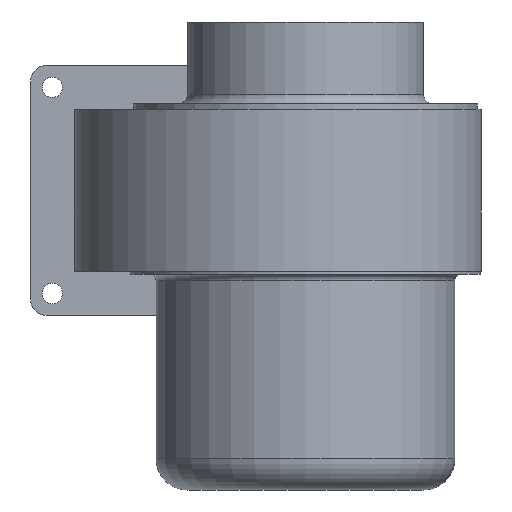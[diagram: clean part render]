
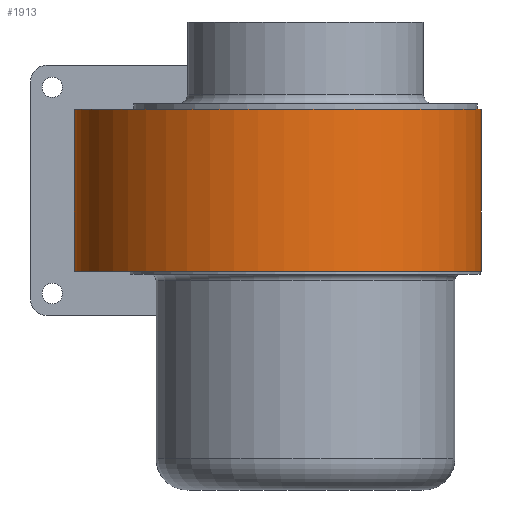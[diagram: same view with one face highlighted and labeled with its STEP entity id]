
A CAD part, left-side view. The second image highlights one B-rep face of the part: STEP entity #1913.
In plain terms, the highlighted free-form (B-spline) face has degree [3, 1] with [30, 2] control points.
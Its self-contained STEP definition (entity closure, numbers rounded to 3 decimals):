
#46=B_SPLINE_SURFACE_WITH_KNOTS('',3,1,((#3115,#3116),(#3117,#3118),(#3119,
#3120),(#3121,#3122),(#3123,#3124),(#3125,#3126),(#3127,#3128),(#3129,#3130),
(#3131,#3132),(#3133,#3134),(#3135,#3136),(#3137,#3138),(#3139,#3140),(#3141,
#3142),(#3143,#3144),(#3145,#3146),(#3147,#3148),(#3149,#3150),(#3151,#3152),
(#3153,#3154),(#3155,#3156),(#3157,#3158),(#3159,#3160),(#3161,#3162),(#3163,
#3164),(#3165,#3166),(#3167,#3168),(#3169,#3170),(#3171,#3172),(#3173,#3174)),
 .SURF_OF_LINEAR_EXTRUSION.,.F.,.F.,.F.,(4,1,1,1,1,1,1,1,1,1,1,1,1,1,1,
1,1,1,1,1,1,1,1,1,1,1,1,4),(2,2),(0.,0.016,0.031,0.047,0.063,0.078,
0.094,0.125,0.188,0.219,0.25,0.266,0.281,0.313,0.375,0.438,
0.5,0.563,0.625,0.688,0.75,0.813,0.844,0.875,0.906,0.938,0.969,
1.),(0.,1.),.UNSPECIFIED.);
#116=B_SPLINE_CURVE_WITH_KNOTS('',3,(#3008,#3009,#3010,#3011,#3012,#3013,
#3014,#3015,#3016,#3017,#3018,#3019,#3020,#3021,#3022,#3023,#3024,#3025,
#3026,#3027,#3028,#3029,#3030,#3031,#3032),.UNSPECIFIED.,.F.,.F.,(4,1,1,
1,1,1,1,1,1,1,1,1,1,1,1,1,1,1,1,1,1,1,4),(0.,0.017,0.037,
0.065,0.083,0.108,0.141,
0.172,0.205,0.241,0.267,
0.308,0.359,0.43,0.497,
0.573,0.63,0.698,0.762,
0.818,0.896,0.962,1.),.UNSPECIFIED.);
#117=B_SPLINE_CURVE_WITH_KNOTS('',3,(#3053,#3054,#3055,#3056,#3057,#3058,
#3059,#3060,#3061,#3062,#3063,#3064,#3065,#3066,#3067,#3068,#3069,#3070,
#3071,#3072,#3073,#3074,#3075,#3076,#3077),.UNSPECIFIED.,.F.,.F.,(4,1,1,
1,1,1,1,1,1,1,1,1,1,1,1,1,1,1,1,1,1,1,4),(0.,0.017,0.037,
0.065,0.083,0.108,0.141,
0.172,0.205,0.241,0.267,
0.308,0.359,0.43,0.497,
0.573,0.63,0.698,0.762,
0.818,0.896,0.962,1.),.UNSPECIFIED.);
#296=ORIENTED_EDGE('',*,*,#805,.T.);
#297=ORIENTED_EDGE('',*,*,#813,.F.);
#298=ORIENTED_EDGE('',*,*,#794,.F.);
#299=ORIENTED_EDGE('',*,*,#812,.T.);
#794=EDGE_CURVE('',#1056,#1057,#116,.T.);
#805=EDGE_CURVE('',#1066,#1065,#117,.T.);
#812=EDGE_CURVE('',#1056,#1066,#1255,.T.);
#813=EDGE_CURVE('',#1057,#1065,#1256,.T.);
#1056=VERTEX_POINT('',#3007);
#1057=VERTEX_POINT('',#3033);
#1065=VERTEX_POINT('',#3052);
#1066=VERTEX_POINT('',#3078);
#1255=LINE('',#3114,#1368);
#1256=LINE('',#3175,#1369);
#1368=VECTOR('',#2378,1000.);
#1369=VECTOR('',#2379,1000.);
#1480=EDGE_LOOP('',(#296,#297,#298,#299));
#1679=FACE_BOUND('',#1480,.T.);
#1913=ADVANCED_FACE('',(#1679),#46,.F.);
#2378=DIRECTION('',(0.,0.,1.));
#2379=DIRECTION('',(0.,0.,1.));
#3007=CARTESIAN_POINT('',(-347.216,231.417,-51.8));
#3008=CARTESIAN_POINT('',(-347.216,231.417,-51.8));
#3009=CARTESIAN_POINT('',(-348.376,231.153,-51.8));
#3010=CARTESIAN_POINT('',(-350.901,230.27,-51.8));
#3011=CARTESIAN_POINT('',(-355.513,229.578,-51.8));
#3012=CARTESIAN_POINT('',(-360.25,229.092,-51.8));
#3013=CARTESIAN_POINT('',(-365.418,228.973,-51.8));
#3014=CARTESIAN_POINT('',(-370.893,229.32,-51.8));
#3015=CARTESIAN_POINT('',(-377.259,230.447,-51.8));
#3016=CARTESIAN_POINT('',(-383.902,232.498,-51.8));
#3017=CARTESIAN_POINT('',(-390.511,235.475,-51.8));
#3018=CARTESIAN_POINT('',(-396.297,239.07,-51.8));
#3019=CARTESIAN_POINT('',(-402.087,243.751,-51.8));
#3020=CARTESIAN_POINT('',(-408.247,249.547,-51.8));
#3021=CARTESIAN_POINT('',(-415.285,259.077,-51.8));
#3022=CARTESIAN_POINT('',(-420.953,271.654,-51.8));
#3023=CARTESIAN_POINT('',(-423.451,286.963,-51.8));
#3024=CARTESIAN_POINT('',(-422.949,301.481,-51.8));
#3025=CARTESIAN_POINT('',(-419.104,315.523,-51.8));
#3026=CARTESIAN_POINT('',(-412.785,327.752,-51.8));
#3027=CARTESIAN_POINT('',(-404.136,338.23,-51.8));
#3028=CARTESIAN_POINT('',(-393.41,347.641,-51.8));
#3029=CARTESIAN_POINT('',(-380.682,354.635,-51.8));
#3030=CARTESIAN_POINT('',(-368.021,358.411,-51.8));
#3031=CARTESIAN_POINT('',(-360.546,359.125,-51.8));
#3032=CARTESIAN_POINT('',(-357.815,359.386,-51.8));
#3033=CARTESIAN_POINT('',(-357.815,359.386,-51.8));
#3052=CARTESIAN_POINT('',(-357.815,359.386,0.));
#3053=CARTESIAN_POINT('',(-347.216,231.417,0.));
#3054=CARTESIAN_POINT('',(-348.376,231.153,0.));
#3055=CARTESIAN_POINT('',(-350.901,230.27,0.));
#3056=CARTESIAN_POINT('',(-355.513,229.578,0.));
#3057=CARTESIAN_POINT('',(-360.25,229.092,0.));
#3058=CARTESIAN_POINT('',(-365.418,228.973,0.));
#3059=CARTESIAN_POINT('',(-370.893,229.32,0.));
#3060=CARTESIAN_POINT('',(-377.259,230.447,0.));
#3061=CARTESIAN_POINT('',(-383.902,232.498,0.));
#3062=CARTESIAN_POINT('',(-390.511,235.475,0.));
#3063=CARTESIAN_POINT('',(-396.297,239.07,0.));
#3064=CARTESIAN_POINT('',(-402.087,243.751,0.));
#3065=CARTESIAN_POINT('',(-408.247,249.547,0.));
#3066=CARTESIAN_POINT('',(-415.285,259.077,0.));
#3067=CARTESIAN_POINT('',(-420.953,271.654,0.));
#3068=CARTESIAN_POINT('',(-423.451,286.963,0.));
#3069=CARTESIAN_POINT('',(-422.949,301.481,0.));
#3070=CARTESIAN_POINT('',(-419.104,315.523,0.));
#3071=CARTESIAN_POINT('',(-412.785,327.752,0.));
#3072=CARTESIAN_POINT('',(-404.136,338.23,0.));
#3073=CARTESIAN_POINT('',(-393.41,347.641,0.));
#3074=CARTESIAN_POINT('',(-380.682,354.635,0.));
#3075=CARTESIAN_POINT('',(-368.021,358.411,0.));
#3076=CARTESIAN_POINT('',(-360.546,359.125,0.));
#3077=CARTESIAN_POINT('',(-357.815,359.386,0.));
#3078=CARTESIAN_POINT('',(-347.216,231.417,0.));
#3114=CARTESIAN_POINT('',(-347.216,231.417,-51.8));
#3115=CARTESIAN_POINT('',(-347.216,231.417,-51.8));
#3116=CARTESIAN_POINT('',(-347.216,231.417,0.));
#3117=CARTESIAN_POINT('',(-348.302,231.17,-51.8));
#3118=CARTESIAN_POINT('',(-348.302,231.17,0.));
#3119=CARTESIAN_POINT('',(-350.461,230.421,-51.8));
#3120=CARTESIAN_POINT('',(-350.461,230.421,0.));
#3121=CARTESIAN_POINT('',(-353.78,229.818,-51.8));
#3122=CARTESIAN_POINT('',(-353.78,229.818,0.));
#3123=CARTESIAN_POINT('',(-357.131,229.414,-51.8));
#3124=CARTESIAN_POINT('',(-357.131,229.414,0.));
#3125=CARTESIAN_POINT('',(-360.493,229.114,-51.8));
#3126=CARTESIAN_POINT('',(-360.493,229.114,0.));
#3127=CARTESIAN_POINT('',(-363.866,228.994,-51.8));
#3128=CARTESIAN_POINT('',(-363.866,228.994,0.));
#3129=CARTESIAN_POINT('',(-368.366,229.106,-51.8));
#3130=CARTESIAN_POINT('',(-368.366,229.106,0.));
#3131=CARTESIAN_POINT('',(-376.204,230.025,-51.8));
#3132=CARTESIAN_POINT('',(-376.204,230.025,0.));
#3133=CARTESIAN_POINT('',(-384.869,232.687,-51.8));
#3134=CARTESIAN_POINT('',(-384.869,232.687,0.));
#3135=CARTESIAN_POINT('',(-392.877,236.845,-51.8));
#3136=CARTESIAN_POINT('',(-392.877,236.845,0.));
#3137=CARTESIAN_POINT('',(-397.519,240.04,-51.8));
#3138=CARTESIAN_POINT('',(-397.519,240.04,0.));
#3139=CARTESIAN_POINT('',(-400.992,242.9,-51.8));
#3140=CARTESIAN_POINT('',(-400.992,242.9,0.));
#3141=CARTESIAN_POINT('',(-404.37,245.881,-51.8));
#3142=CARTESIAN_POINT('',(-404.37,245.881,0.));
#3143=CARTESIAN_POINT('',(-409.911,251.487,-51.8));
#3144=CARTESIAN_POINT('',(-409.911,251.487,0.));
#3145=CARTESIAN_POINT('',(-416.3,260.868,-51.8));
#3146=CARTESIAN_POINT('',(-416.3,260.868,0.));
#3147=CARTESIAN_POINT('',(-421.348,273.515,-51.8));
#3148=CARTESIAN_POINT('',(-421.348,273.515,0.));
#3149=CARTESIAN_POINT('',(-423.329,286.959,-51.8));
#3150=CARTESIAN_POINT('',(-423.329,286.959,0.));
#3151=CARTESIAN_POINT('',(-423.006,300.548,-51.8));
#3152=CARTESIAN_POINT('',(-423.006,300.548,0.));
#3153=CARTESIAN_POINT('',(-419.77,313.743,-51.8));
#3154=CARTESIAN_POINT('',(-419.77,313.743,0.));
#3155=CARTESIAN_POINT('',(-413.853,325.995,-51.8));
#3156=CARTESIAN_POINT('',(-413.853,325.995,0.));
#3157=CARTESIAN_POINT('',(-405.582,336.749,-51.8));
#3158=CARTESIAN_POINT('',(-405.582,336.749,0.));
#3159=CARTESIAN_POINT('',(-397.27,344.415,-51.8));
#3160=CARTESIAN_POINT('',(-397.27,344.415,0.));
#3161=CARTESIAN_POINT('',(-389.81,349.479,-51.8));
#3162=CARTESIAN_POINT('',(-389.81,349.479,0.));
#3163=CARTESIAN_POINT('',(-383.856,352.707,-51.8));
#3164=CARTESIAN_POINT('',(-383.856,352.707,0.));
#3165=CARTESIAN_POINT('',(-377.619,355.366,-51.8));
#3166=CARTESIAN_POINT('',(-377.619,355.366,0.));
#3167=CARTESIAN_POINT('',(-371.162,357.427,-51.8));
#3168=CARTESIAN_POINT('',(-371.162,357.427,0.));
#3169=CARTESIAN_POINT('',(-364.539,358.753,-51.8));
#3170=CARTESIAN_POINT('',(-364.539,358.753,0.));
#3171=CARTESIAN_POINT('',(-360.056,359.172,-51.8));
#3172=CARTESIAN_POINT('',(-360.056,359.172,0.));
#3173=CARTESIAN_POINT('',(-357.815,359.386,-51.8));
#3174=CARTESIAN_POINT('',(-357.815,359.386,0.));
#3175=CARTESIAN_POINT('',(-357.815,359.386,-51.8));
